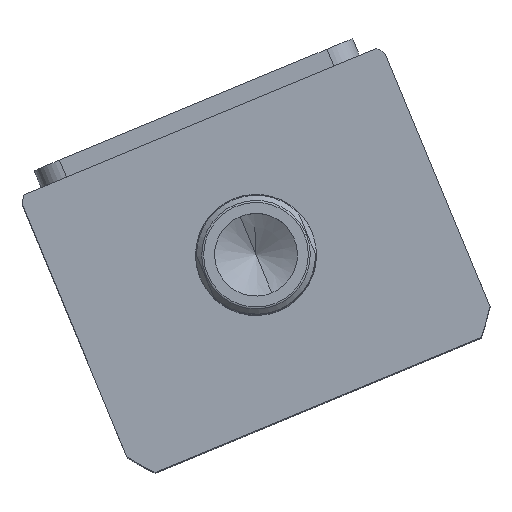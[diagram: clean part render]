
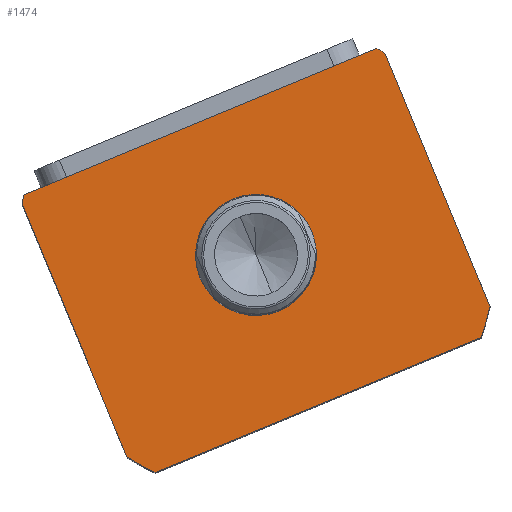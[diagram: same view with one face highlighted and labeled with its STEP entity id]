
A CAD part, top view. The second image highlights one B-rep face of the part: STEP entity #1474.
In plain terms, the highlighted planar face has unit normal (0, 0, 1) as drawn and (0, 0, -1) by its records, which use the part's own axes.
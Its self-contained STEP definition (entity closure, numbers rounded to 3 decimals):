
#73 = CARTESIAN_POINT ( 'NONE',  ( -55.374, 44.5, 0. ) ) ;
#177 = CARTESIAN_POINT ( 'NONE',  ( 0., 0., 0. ) ) ;
#1138 = DIRECTION ( 'NONE',  ( 0., 1., 0. ) ) ;
#1170 = VECTOR ( 'NONE', #18274, 1000. ) ;
#1474 = ADVANCED_FACE ( 'NONE', ( #12716, #17007 ), #15635, .F. ) ;
#1585 = CARTESIAN_POINT ( 'NONE',  ( 0., 2.5, 0. ) ) ;
#1716 = AXIS2_PLACEMENT_3D ( 'NONE', #1585, #11908, #3072 ) ;
#1796 = CARTESIAN_POINT ( 'NONE',  ( -57., 44.5, 0. ) ) ;
#2116 = LINE ( 'NONE', #14416, #9515 ) ;
#2636 = CARTESIAN_POINT ( 'NONE',  ( 57., 44.5, 0. ) ) ;
#3072 = DIRECTION ( 'NONE',  ( 1., 0., 0. ) ) ;
#3278 = DIRECTION ( 'NONE',  ( -1., 0., 0. ) ) ;
#3391 = EDGE_LOOP ( 'NONE', ( #11055, #5030, #15840, #11512, #11281, #5022, #8962, #3879 ) ) ;
#3423 = EDGE_CURVE ( 'NONE', #10146, #9630, #4626, .T. ) ;
#3645 = DIRECTION ( 'NONE',  ( 0., 0., 1. ) ) ;
#3750 = ORIENTED_EDGE ( 'NONE', *, *, #5602, .T. ) ;
#3863 = EDGE_CURVE ( 'NONE', #9630, #6652, #14537, .T. ) ;
#3879 = ORIENTED_EDGE ( 'NONE', *, *, #4612, .F. ) ;
#4337 = CARTESIAN_POINT ( 'NONE',  ( 0., 2.5, 0. ) ) ;
#4364 = CARTESIAN_POINT ( 'NONE',  ( -57., 42.265, 0. ) ) ;
#4375 = CARTESIAN_POINT ( 'NONE',  ( 0., 2.5, 0. ) ) ;
#4612 = EDGE_CURVE ( 'NONE', #7322, #17326, #17213, .T. ) ;
#4626 = LINE ( 'NONE', #9574, #1170 ) ;
#4938 = EDGE_CURVE ( 'NONE', #11007, #12009, #7623, .T. ) ;
#5022 = ORIENTED_EDGE ( 'NONE', *, *, #9131, .F. ) ;
#5030 = ORIENTED_EDGE ( 'NONE', *, *, #9168, .F. ) ;
#5060 = CIRCLE ( 'NONE', #15903, 69.5 ) ;
#5162 = AXIS2_PLACEMENT_3D ( 'NONE', #12502, #3645, #13964 ) ;
#5585 = DIRECTION ( 'NONE',  ( 0., -1., 0. ) ) ;
#5602 = EDGE_CURVE ( 'NONE', #12009, #11007, #15177, .T. ) ;
#5761 = AXIS2_PLACEMENT_3D ( 'NONE', #4375, #14683, #5861 ) ;
#5828 = DIRECTION ( 'NONE',  ( 1., 0., 0. ) ) ;
#5861 = DIRECTION ( 'NONE',  ( 1., 0., 0. ) ) ;
#6068 = DIRECTION ( 'NONE',  ( 0., 0., 1. ) ) ;
#6128 = DIRECTION ( 'NONE',  ( 1., 0., 0. ) ) ;
#6504 = VECTOR ( 'NONE', #1138, 1000. ) ;
#6652 = VERTEX_POINT ( 'NONE', #15621 ) ;
#6994 = VERTEX_POINT ( 'NONE', #4364 ) ;
#7322 = VERTEX_POINT ( 'NONE', #18874 ) ;
#7455 = DIRECTION ( 'NONE',  ( 0., 0., 1. ) ) ;
#7623 = CIRCLE ( 'NONE', #9988, 17.5 ) ;
#7982 = AXIS2_PLACEMENT_3D ( 'NONE', #177, #6068, #6128 ) ;
#8193 = CARTESIAN_POINT ( 'NONE',  ( 0., 2.5, 0. ) ) ;
#8962 = ORIENTED_EDGE ( 'NONE', *, *, #17119, .F. ) ;
#9131 = EDGE_CURVE ( 'NONE', #6994, #13310, #2116, .T. ) ;
#9168 = EDGE_CURVE ( 'NONE', #6652, #17151, #17240, .T. ) ;
#9515 = VECTOR ( 'NONE', #5585, 1000. ) ;
#9574 = CARTESIAN_POINT ( 'NONE',  ( -57., -44.5, 0. ) ) ;
#9630 = VERTEX_POINT ( 'NONE', #17922 ) ;
#9678 = DIRECTION ( 'NONE',  ( 1., 0., 0. ) ) ;
#9699 = CIRCLE ( 'NONE', #1716, 69.5 ) ;
#9988 = AXIS2_PLACEMENT_3D ( 'NONE', #4337, #14648, #5828 ) ;
#10146 = VERTEX_POINT ( 'NONE', #13786 ) ;
#10452 = CARTESIAN_POINT ( 'NONE',  ( 57., 42.265, 0. ) ) ;
#10896 = CIRCLE ( 'NONE', #5162, 69.5 ) ;
#11007 = VERTEX_POINT ( 'NONE', #11980 ) ;
#11055 = ORIENTED_EDGE ( 'NONE', *, *, #12043, .F. ) ;
#11281 = ORIENTED_EDGE ( 'NONE', *, *, #14383, .F. ) ;
#11512 = ORIENTED_EDGE ( 'NONE', *, *, #3423, .F. ) ;
#11846 = AXIS2_PLACEMENT_3D ( 'NONE', #8193, #18385, #9678 ) ;
#11908 = DIRECTION ( 'NONE',  ( 0., 0., 1. ) ) ;
#11980 = CARTESIAN_POINT ( 'NONE',  ( -17.5, 2.5, 0. ) ) ;
#12009 = VERTEX_POINT ( 'NONE', #17584 ) ;
#12043 = EDGE_CURVE ( 'NONE', #17151, #7322, #5060, .T. ) ;
#12502 = CARTESIAN_POINT ( 'NONE',  ( 0., 2.5, 0. ) ) ;
#12716 = FACE_BOUND ( 'NONE', #17826, .T. ) ;
#12931 = VECTOR ( 'NONE', #3278, 1000. ) ;
#13310 = VERTEX_POINT ( 'NONE', #13539 ) ;
#13539 = CARTESIAN_POINT ( 'NONE',  ( -57., -37.265, 0. ) ) ;
#13786 = CARTESIAN_POINT ( 'NONE',  ( -51.198, -44.5, 0. ) ) ;
#13964 = DIRECTION ( 'NONE',  ( 1., 0., 0. ) ) ;
#14383 = EDGE_CURVE ( 'NONE', #13310, #10146, #10896, .T. ) ;
#14416 = CARTESIAN_POINT ( 'NONE',  ( -57., 44.5, 0. ) ) ;
#14537 = CIRCLE ( 'NONE', #5761, 69.5 ) ;
#14648 = DIRECTION ( 'NONE',  ( 0., 0., 1. ) ) ;
#14683 = DIRECTION ( 'NONE',  ( 0., 0., 1. ) ) ;
#15177 = CIRCLE ( 'NONE', #11846, 17.5 ) ;
#15621 = CARTESIAN_POINT ( 'NONE',  ( 57., -37.265, 0. ) ) ;
#15635 = PLANE ( 'NONE',  #7982 ) ;
#15840 = ORIENTED_EDGE ( 'NONE', *, *, #3863, .F. ) ;
#15903 = AXIS2_PLACEMENT_3D ( 'NONE', #16218, #7455, #17651 ) ;
#16218 = CARTESIAN_POINT ( 'NONE',  ( 0., 2.5, 0. ) ) ;
#17007 = FACE_OUTER_BOUND ( 'NONE', #3391, .T. ) ;
#17119 = EDGE_CURVE ( 'NONE', #17326, #6994, #9699, .T. ) ;
#17151 = VERTEX_POINT ( 'NONE', #10452 ) ;
#17213 = LINE ( 'NONE', #1796, #12931 ) ;
#17240 = LINE ( 'NONE', #2636, #6504 ) ;
#17326 = VERTEX_POINT ( 'NONE', #73 ) ;
#17584 = CARTESIAN_POINT ( 'NONE',  ( 17.5, 2.5, 0. ) ) ;
#17651 = DIRECTION ( 'NONE',  ( 1., 0., 0. ) ) ;
#17826 = EDGE_LOOP ( 'NONE', ( #3750, #18743 ) ) ;
#17922 = CARTESIAN_POINT ( 'NONE',  ( 51.198, -44.5, 0. ) ) ;
#18274 = DIRECTION ( 'NONE',  ( 1., 0., 0. ) ) ;
#18385 = DIRECTION ( 'NONE',  ( 0., 0., 1. ) ) ;
#18743 = ORIENTED_EDGE ( 'NONE', *, *, #4938, .T. ) ;
#18874 = CARTESIAN_POINT ( 'NONE',  ( 55.374, 44.5, 0. ) ) ;
